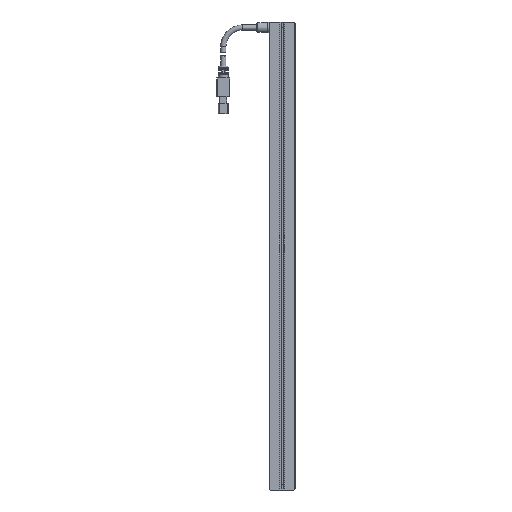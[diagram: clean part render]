
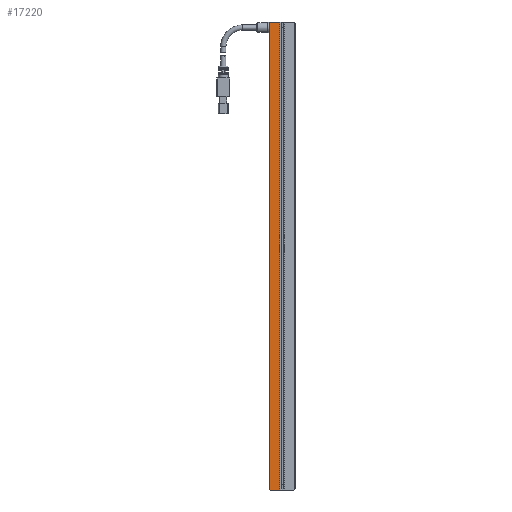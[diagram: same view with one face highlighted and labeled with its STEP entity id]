
A CAD part, front view. The second image highlights one B-rep face of the part: STEP entity #17220.
In plain terms, the highlighted planar face has unit normal (0, -1, 0).
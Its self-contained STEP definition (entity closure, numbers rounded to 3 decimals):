
#177 = ORIENTED_EDGE ( 'NONE', *, *, #4385, .F. ) ;
#198 = ORIENTED_EDGE ( 'NONE', *, *, #12344, .F. ) ;
#251 = EDGE_CURVE ( 'NONE', #6283, #5372, #579, .T. ) ;
#411 = CARTESIAN_POINT ( 'NONE',  ( -1.75, 0., 181. ) ) ;
#579 = LINE ( 'NONE', #4418, #16717 ) ;
#825 = LINE ( 'NONE', #3938, #10793 ) ;
#1745 = FACE_OUTER_BOUND ( 'NONE', #18019, .T. ) ;
#2137 = CARTESIAN_POINT ( 'NONE',  ( -9.5, 0., 180.5 ) ) ;
#2368 = VECTOR ( 'NONE', #18859, 1000. ) ;
#3268 = DIRECTION ( 'NONE',  ( -0.707, 0., -0.707 ) ) ;
#3938 = CARTESIAN_POINT ( 'NONE',  ( 0., 0., 181. ) ) ;
#4002 = DIRECTION ( 'NONE',  ( -1., 0., 0. ) ) ;
#4160 = VERTEX_POINT ( 'NONE', #4464 ) ;
#4385 = EDGE_CURVE ( 'NONE', #15719, #10854, #15211, .T. ) ;
#4418 = CARTESIAN_POINT ( 'NONE',  ( -9.5, 0., 181. ) ) ;
#4464 = CARTESIAN_POINT ( 'NONE',  ( -9., 0., 181. ) ) ;
#4718 = DIRECTION ( 'NONE',  ( 0.707, 0., -0.707 ) ) ;
#4724 = VECTOR ( 'NONE', #12312, 1000. ) ;
#4942 = ORIENTED_EDGE ( 'NONE', *, *, #16834, .T. ) ;
#5372 = VERTEX_POINT ( 'NONE', #8490 ) ;
#6283 = VERTEX_POINT ( 'NONE', #2137 ) ;
#7042 = LINE ( 'NONE', #8853, #7489 ) ;
#7216 = EDGE_CURVE ( 'NONE', #5372, #10656, #7042, .T. ) ;
#7489 = VECTOR ( 'NONE', #4718, 1000. ) ;
#8490 = CARTESIAN_POINT ( 'NONE',  ( -9.5, 0., -180.5 ) ) ;
#8493 = VECTOR ( 'NONE', #3268, 1000. ) ;
#8853 = CARTESIAN_POINT ( 'NONE',  ( -185.5, 0., -4.5 ) ) ;
#9125 = CARTESIAN_POINT ( 'NONE',  ( 0., 0., 181. ) ) ;
#9260 = DIRECTION ( 'NONE',  ( 0., -1., 0. ) ) ;
#10205 = CARTESIAN_POINT ( 'NONE',  ( -9., 0., -181. ) ) ;
#10523 = LINE ( 'NONE', #17474, #2368 ) ;
#10656 = VERTEX_POINT ( 'NONE', #10205 ) ;
#10793 = VECTOR ( 'NONE', #4002, 1000. ) ;
#10854 = VERTEX_POINT ( 'NONE', #17036 ) ;
#10951 = ORIENTED_EDGE ( 'NONE', *, *, #11187, .T. ) ;
#10978 = AXIS2_PLACEMENT_3D ( 'NONE', #9125, #9260, #13576 ) ;
#11073 = ORIENTED_EDGE ( 'NONE', *, *, #251, .T. ) ;
#11187 = EDGE_CURVE ( 'NONE', #4160, #6283, #12339, .T. ) ;
#12021 = PLANE ( 'NONE',  #10978 ) ;
#12312 = DIRECTION ( 'NONE',  ( 0., 0., -1. ) ) ;
#12339 = LINE ( 'NONE', #15103, #8493 ) ;
#12344 = EDGE_CURVE ( 'NONE', #10854, #10656, #10523, .T. ) ;
#13576 = DIRECTION ( 'NONE',  ( 1., 0., 0. ) ) ;
#14648 = DIRECTION ( 'NONE',  ( 0., 0., -1. ) ) ;
#15103 = CARTESIAN_POINT ( 'NONE',  ( -4.5, 0., 185.5 ) ) ;
#15211 = LINE ( 'NONE', #411, #4724 ) ;
#15719 = VERTEX_POINT ( 'NONE', #18556 ) ;
#16717 = VECTOR ( 'NONE', #14648, 1000. ) ;
#16726 = ORIENTED_EDGE ( 'NONE', *, *, #7216, .T. ) ;
#16834 = EDGE_CURVE ( 'NONE', #15719, #4160, #825, .T. ) ;
#17036 = CARTESIAN_POINT ( 'NONE',  ( -1.75, 0., -181. ) ) ;
#17220 = ADVANCED_FACE ( 'NONE', ( #1745 ), #12021, .T. ) ;
#17474 = CARTESIAN_POINT ( 'NONE',  ( 0., 0., -181. ) ) ;
#18019 = EDGE_LOOP ( 'NONE', ( #4942, #10951, #11073, #16726, #198, #177 ) ) ;
#18556 = CARTESIAN_POINT ( 'NONE',  ( -1.75, 0., 181. ) ) ;
#18859 = DIRECTION ( 'NONE',  ( -1., 0., 0. ) ) ;
